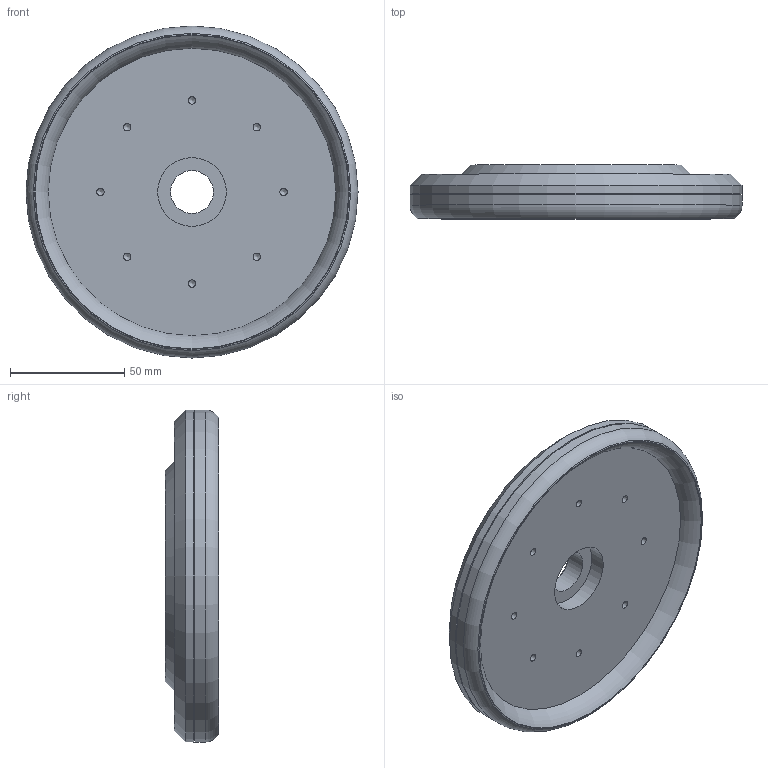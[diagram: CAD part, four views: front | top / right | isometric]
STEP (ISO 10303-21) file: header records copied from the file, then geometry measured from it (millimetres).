
FILE_DESCRIPTION (( 'STEP AP214' ), '1' );
FILE_NAME ('10ff.150.001.15.STEP', '2026-03-26T18:33:54', ( '' ), ( '' ), 'SwSTEP 2.0', 'SolidWorks 2025', '' );
FILE_SCHEMA (( 'AUTOMOTIVE_DESIGN' ));
Length unit declared in the file: millimetre
Products named in the file (1): 10ff.150.001.15
Bounding box: 145 x 23.5 x 145 mm (x, y, z)
Volume: 240929.4 mm3; surface area: 44647 mm2
Topology: 1 solids, 1 shells, 46 faces, 107 edges, 72 vertices
Faces by surface type: cylinder 16, cone 16, plane 11, torus 3
Full cylindrical faces by diameter (mm): 3.242 x8, 4 x4, 18.631 x1, 30 x1, 145 x2
Entity records: 951 total; most frequent: DIRECTION 186, CARTESIAN_POINT 139, AXIS2_PLACEMENT_3D 93, ORIENTED_EDGE 92, EDGE_LOOP 92, FACE_OUTER_BOUND 65, ADVANCED_FACE 46, VERTEX_POINT 46
